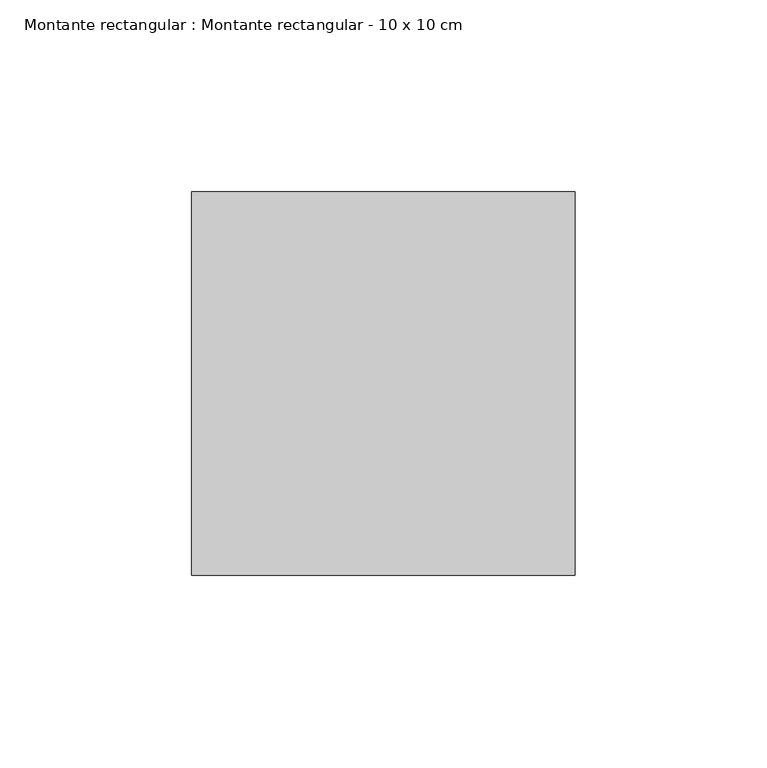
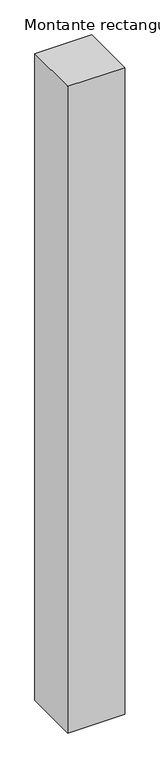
"""IFC4 building model written with IfcOpenShell, lengths in millimetres: member geometry, Montante rectangular : Montante rectangular - 10 x 10 cm."""

from ifc_helpers import new_model, si_unit, frame, origin, place, context, project, spatial, polyline, outline, extrude, source, transform, mapped, element, save


def montante_rectangular_montante_rectangular_10_x_10_cm_3d635e15(model_context):
    return source(origin(), model_context, "Body", "SweptSolid", [
        extrude(outline(polyline([(0.0, -50.0), (-100.0, -50.0), (-100.0, 50.0), (0.0, 50.0), (0.0, -50.0)])), frame((0.0, 0.0, -1200.0), z_axis=(0.0, 0.0, 1.0), x_axis=(1.0, 0.0, 0.0)), (0.0, 0.0, 1.0), 1200.0),
    ])


if __name__ == "__main__":
    model = new_model("IFC4")
    model_context = context("Model", 3, world=origin())
    ifc_project = project(units=[si_unit("LENGTHUNIT", "METRE", prefix="MILLI")], contexts=[model_context])
    site = spatial("IfcSite", under=ifc_project)
    building = spatial("IfcBuilding", under=site)
    placement = place(None, origin())
    montante_rectangular_montante_rectangular_10_x_10_cm_shape = montante_rectangular_montante_rectangular_10_x_10_cm_3d635e15(model_context)
    element("IfcMember", 1, ObjectType="Montante rectangular : Montante rectangular - 10 x 10 cm", at=placement, inside=building, context=model_context, shape_type="MappedRepresentation", body=[
        mapped(montante_rectangular_montante_rectangular_10_x_10_cm_shape, transform((0.0, 0.0, 0.0), x_axis=(1.0, 0.0, 0.0), y_axis=(0.0, 1.0, 0.0), z_axis=(0.0, 0.0, 1.0))),
    ])
    save(model, "model.ifc")
